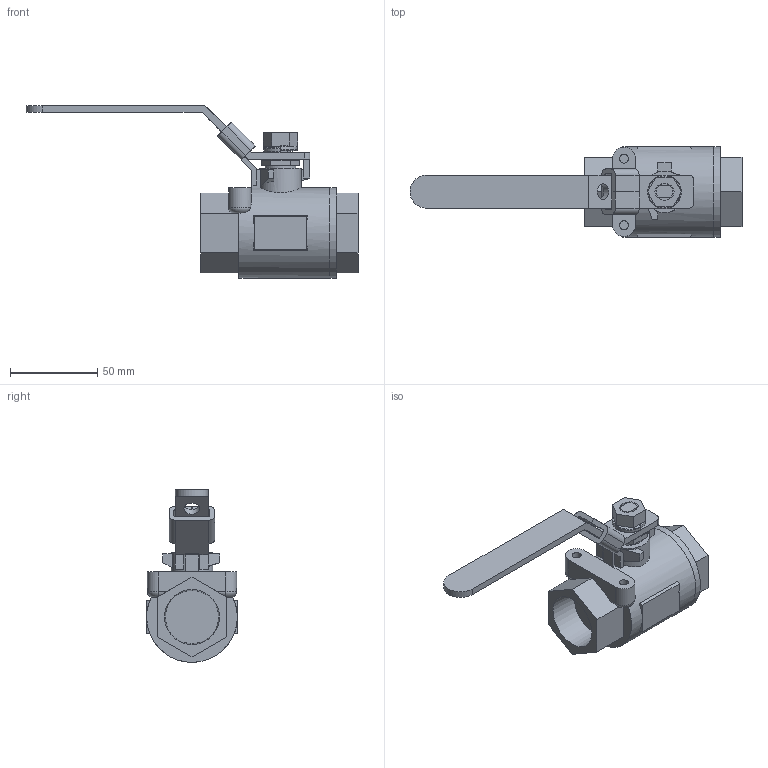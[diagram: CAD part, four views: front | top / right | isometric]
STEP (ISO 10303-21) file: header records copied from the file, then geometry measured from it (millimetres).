
FILE_DESCRIPTION((' '),'2;1');
FILE_NAME('N:\Technical Support\Private\Jomar Valve CAD\Ball Valves\CS and SS\1001N\1.0 T-CS[SS]-1001N (100-975 [100-965]) FusionCopy.stp.step','2016-07-05T12:00:23',(' '),(' '),' ','ACIS',' ');
FILE_SCHEMA(('CONFIG_CONTROL_DESIGN'));
Length unit declared in the file: inch
Products named in the file (9): N:\Technical Support\Private\Jomar Valve CAD\Ball Valves\CS and SS\1001N\1.0 T-CS[SS]-1001N (100-975 [100-965]) FusionCopy.stp.step; Body1; Body2; Body3; Body4; Body5; Body6; Body7; Body8
Assembly tree (8 placements, depth 2):
  N:\Technical Support\Private\Jomar Valve CAD\Ball Valves\CS and SS\1001N\1.0 T-CS[SS]-1001N (100-975 [100-965]) FusionCopy.stp.step
    Body1
    Body2
    Body3
    Body4
    Body5
    Body6
    Body7
    Body8
Bounding box: 189.87 x 51.82 x 98.77 mm (x, y, z)
Volume: 169898.7 mm3; surface area: 41474.9 mm2
Topology: 8 solids, 8 shells, 181 faces, 450 edges, 293 vertices
Faces by surface type: plane 115, cylinder 28, bspline 16, cone 12, torus 10
Full cylindrical faces by diameter (mm): 5.156 x1, 9.017 x1, 9.525 x1, 11.963 x2, 17.475 x1, 23.876 x1, 51.816 x2
Entity records: 6595 total; most frequent: CARTESIAN_POINT 1092, DIRECTION 890, ORIENTED_EDGE 854, EDGE_CURVE 427, AXIS2_PLACEMENT_3D 297, VECTOR 296, LINE 296, VERTEX_POINT 284
